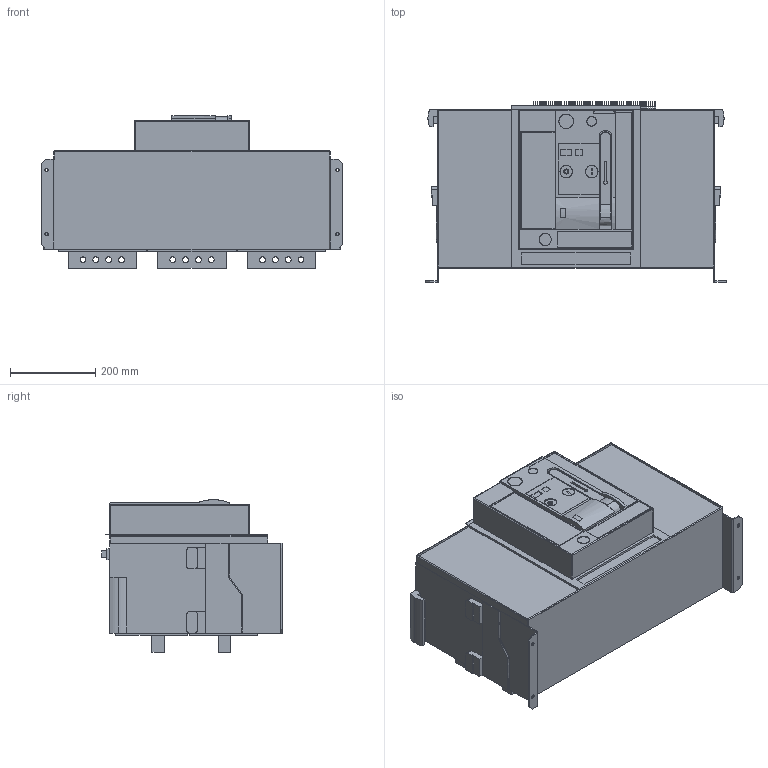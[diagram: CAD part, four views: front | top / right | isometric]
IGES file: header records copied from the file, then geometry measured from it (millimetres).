
Start section: SolidWorks IGES file using analytic representation for surfaces
Global section: file name: U:\14_RD\05_Technical_office\04_Office\Hrdinova\3D modely - IGES\Arion\ARION_WL1350-___32.IGS; native system: SolidWorks 2011; preprocessor: SolidWorks 2011; author: adhrja3; date: 170609.090631; units: millimetre
Bounding box: 704 x 422.4 x 357 mm (x, y, z)
Surface area: 1499474 mm2 (no closed solid volume)
Topology: 0 solids, 0 shells, 1413 faces, 14422 edges, 14414 vertices
Faces by surface type: bspline 1069, revolution 344
